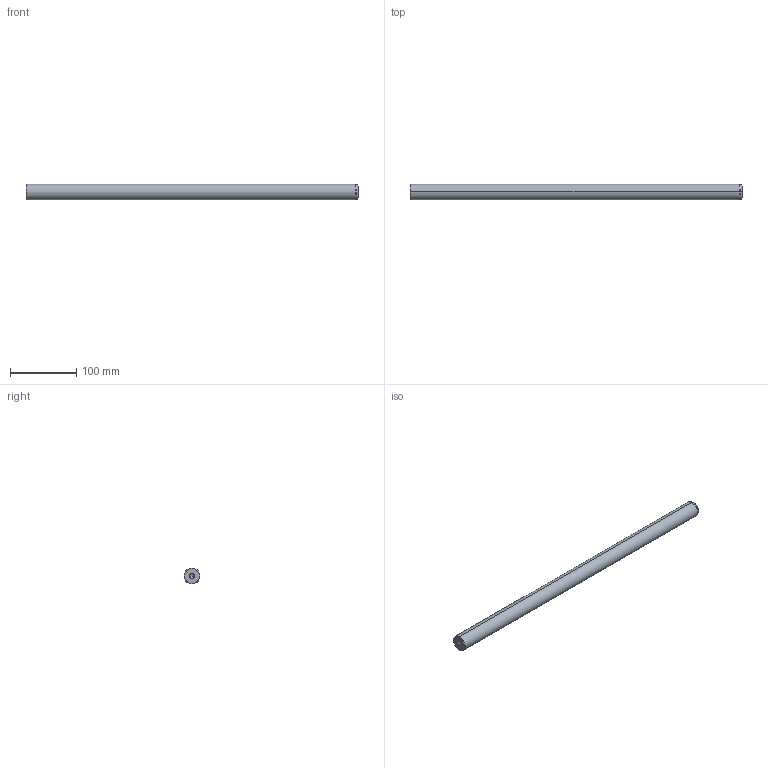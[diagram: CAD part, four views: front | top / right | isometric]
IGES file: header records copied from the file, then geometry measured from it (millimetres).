
Start section: START RECORD GO HERE.
Global section: file name: 720-24x500.igs; native system: DASSAULT SYSTEMES CATIA V5 R20 - www.3ds.com; preprocessor: CATIA Version 5 Release 20 ; author: Utente; organization: NB04-ASUS; date: 20210101.134533; units: millimetre
Bounding box: 500 x 24 x 24 mm (x, y, z)
Surface area: 39439.2 mm2 (no closed solid volume)
Topology: 0 solids, 0 shells, 22 faces, 120 edges, 116 vertices
Faces by surface type: revolution 20, plane 2
